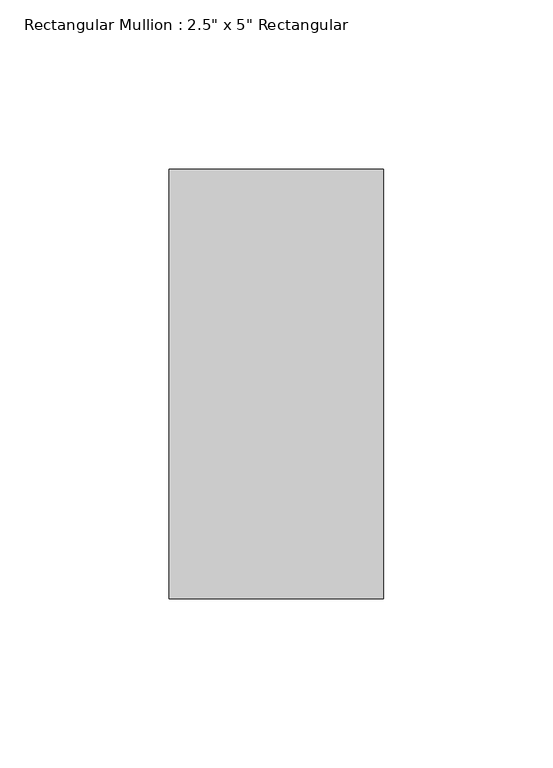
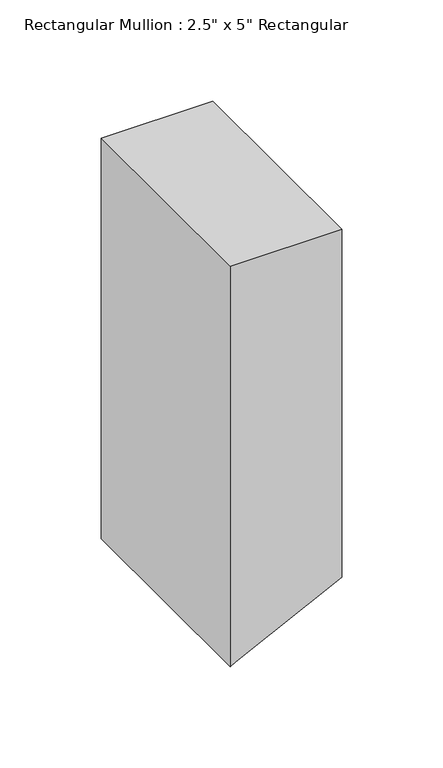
"""IFC4 building model written with IfcOpenShell, lengths in millimetres: member geometry."""

from ifc_helpers import new_model, si_unit, frame, origin, place, context, project, spatial, polyline, outline, extrude, source, transform, mapped, element, save


def member_0f02f596(model_context):
    return source(origin(), model_context, "Body", "SweptSolid", [
        extrude(outline(polyline([(0.0, 31.75), (0.0, -31.75), (-241.2460429, -31.75), (-239.5700745, -28.3980633), (-209.4960429, 31.75), (0.0, 31.75)])), frame((0.0, -63.5, 0.0), z_axis=(0.0, 1.0, 0.0), x_axis=(0.0, 0.0, 1.0)), (0.0, 0.0, 1.0), 127.0),
    ])


if __name__ == "__main__":
    model = new_model("IFC4")
    model_context = context("Model", 3, world=origin())
    ifc_project = project(units=[si_unit("LENGTHUNIT", "METRE", prefix="MILLI")], contexts=[model_context])
    site = spatial("IfcSite", under=ifc_project)
    building = spatial("IfcBuilding", under=site)
    placement = place(None, origin())
    member_shape = member_0f02f596(model_context)
    element("IfcMember", 1, ObjectType="Rectangular Mullion : 2.5\" x 5\" Rectangular", at=placement, inside=building, context=model_context, shape_type="MappedRepresentation", body=[
        mapped(member_shape, transform((0.0, 0.0, 0.0), x_axis=(1.0, 0.0, 0.0), y_axis=(0.0, 1.0, 0.0), z_axis=(0.0, 0.0, 1.0))),
    ])
    save(model, "model.ifc")
